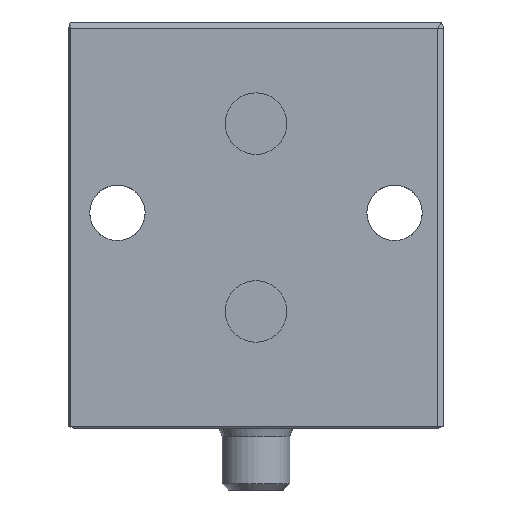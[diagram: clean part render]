
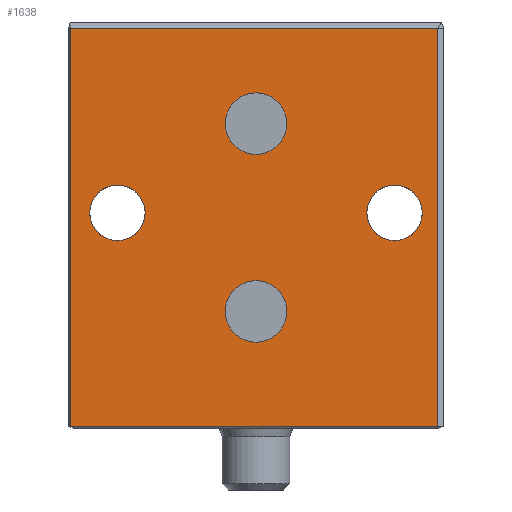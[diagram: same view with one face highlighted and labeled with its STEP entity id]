
A CAD part, front view. The second image highlights one B-rep face of the part: STEP entity #1638.
In plain terms, the highlighted planar face has unit normal (0, -1, 0).
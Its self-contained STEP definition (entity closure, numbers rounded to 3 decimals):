
#22 = AXIS2_PLACEMENT_3D ( 'NONE', #1084, #1463, #2278 ) ;
#62 = AXIS2_PLACEMENT_3D ( 'NONE', #227, #2414, #628 ) ;
#78 = EDGE_CURVE ( 'NONE', #1046, #1297, #368, .T. ) ;
#81 = LINE ( 'NONE', #902, #2338 ) ;
#95 = EDGE_LOOP ( 'NONE', ( #309, #1079 ) ) ;
#104 = EDGE_CURVE ( 'NONE', #399, #1691, #909, .T. ) ;
#114 = ORIENTED_EDGE ( 'NONE', *, *, #1717, .F. ) ;
#153 = CIRCLE ( 'NONE', #62, 4.5 ) ;
#167 = CARTESIAN_POINT ( 'NONE',  ( -30.136, -20.5, 66. ) ) ;
#169 = AXIS2_PLACEMENT_3D ( 'NONE', #1321, #310, #2162 ) ;
#187 = CARTESIAN_POINT ( 'NONE',  ( -30.5, -20.5, 0.364 ) ) ;
#227 = CARTESIAN_POINT ( 'NONE',  ( 22.5, -20.5, 35. ) ) ;
#302 = VERTEX_POINT ( 'NONE', #508 ) ;
#309 = ORIENTED_EDGE ( 'NONE', *, *, #1769, .F. ) ;
#310 = DIRECTION ( 'NONE',  ( 0., -1., 0. ) ) ;
#346 = EDGE_CURVE ( 'NONE', #775, #302, #81, .T. ) ;
#368 = LINE ( 'NONE', #187, #2305 ) ;
#373 = CARTESIAN_POINT ( 'NONE',  ( 29.5, -20.5, 0.364 ) ) ;
#380 = DIRECTION ( 'NONE',  ( 0., 0., 1. ) ) ;
#399 = VERTEX_POINT ( 'NONE', #2340 ) ;
#444 = CIRCLE ( 'NONE', #2614, 4.5 ) ;
#498 = ORIENTED_EDGE ( 'NONE', *, *, #914, .T. ) ;
#508 = CARTESIAN_POINT ( 'NONE',  ( -30.136, -20.5, 65. ) ) ;
#574 = FACE_OUTER_BOUND ( 'NONE', #1750, .T. ) ;
#605 = ORIENTED_EDGE ( 'NONE', *, *, #78, .T. ) ;
#628 = DIRECTION ( 'NONE',  ( 0., 0., 1. ) ) ;
#633 = LINE ( 'NONE', #1429, #2048 ) ;
#648 = DIRECTION ( 'NONE',  ( 0., 0., -1. ) ) ;
#659 = CARTESIAN_POINT ( 'NONE',  ( 0., -20.5, 49.5 ) ) ;
#729 = AXIS2_PLACEMENT_3D ( 'NONE', #834, #1881, #1658 ) ;
#775 = VERTEX_POINT ( 'NONE', #2191 ) ;
#780 = DIRECTION ( 'NONE',  ( 0., 1., 0. ) ) ;
#823 = FACE_BOUND ( 'NONE', #1883, .T. ) ;
#834 = CARTESIAN_POINT ( 'NONE',  ( 0., -20.5, 19. ) ) ;
#838 = VECTOR ( 'NONE', #1786, 1000. ) ;
#848 = EDGE_CURVE ( 'NONE', #1904, #1284, #2532, .T. ) ;
#857 = EDGE_LOOP ( 'NONE', ( #2617, #498 ) ) ;
#870 = CARTESIAN_POINT ( 'NONE',  ( 0., -20.5, 44.5 ) ) ;
#877 = AXIS2_PLACEMENT_3D ( 'NONE', #1782, #780, #380 ) ;
#894 = CARTESIAN_POINT ( 'NONE',  ( -30.136, -20.5, 0.364 ) ) ;
#902 = CARTESIAN_POINT ( 'NONE',  ( -30.5, -20.5, 65. ) ) ;
#909 = CIRCLE ( 'NONE', #1366, 5. ) ;
#914 = EDGE_CURVE ( 'NONE', #1284, #1904, #444, .T. ) ;
#941 = CIRCLE ( 'NONE', #169, 5. ) ;
#952 = ORIENTED_EDGE ( 'NONE', *, *, #1298, .T. ) ;
#978 = VERTEX_POINT ( 'NONE', #870 ) ;
#1006 = DIRECTION ( 'NONE',  ( 0., 0., -1. ) ) ;
#1046 = VERTEX_POINT ( 'NONE', #894 ) ;
#1047 = DIRECTION ( 'NONE',  ( 0., 0., 1. ) ) ;
#1067 = AXIS2_PLACEMENT_3D ( 'NONE', #659, #2289, #648 ) ;
#1079 = ORIENTED_EDGE ( 'NONE', *, *, #1528, .F. ) ;
#1084 = CARTESIAN_POINT ( 'NONE',  ( 22.5, -20.5, 35. ) ) ;
#1163 = CARTESIAN_POINT ( 'NONE',  ( -30.5, -20.5, 66. ) ) ;
#1182 = CARTESIAN_POINT ( 'NONE',  ( 22.5, -20.5, 39.5 ) ) ;
#1188 = DIRECTION ( 'NONE',  ( 0., -1., 0. ) ) ;
#1205 = CARTESIAN_POINT ( 'NONE',  ( -22.5, -20.5, 30.5 ) ) ;
#1269 = VERTEX_POINT ( 'NONE', #1970 ) ;
#1277 = CARTESIAN_POINT ( 'NONE',  ( 0., -20.5, 14. ) ) ;
#1284 = VERTEX_POINT ( 'NONE', #1205 ) ;
#1297 = VERTEX_POINT ( 'NONE', #373 ) ;
#1298 = EDGE_CURVE ( 'NONE', #302, #1046, #1981, .T. ) ;
#1321 = CARTESIAN_POINT ( 'NONE',  ( 0., -20.5, 49.5 ) ) ;
#1356 = ORIENTED_EDGE ( 'NONE', *, *, #2391, .T. ) ;
#1366 = AXIS2_PLACEMENT_3D ( 'NONE', #1400, #1188, #1006 ) ;
#1379 = EDGE_CURVE ( 'NONE', #1297, #775, #633, .T. ) ;
#1400 = CARTESIAN_POINT ( 'NONE',  ( 0., -20.5, 19. ) ) ;
#1420 = DIRECTION ( 'NONE',  ( 0., 1., 0. ) ) ;
#1429 = CARTESIAN_POINT ( 'NONE',  ( 29.5, -20.5, 66. ) ) ;
#1463 = DIRECTION ( 'NONE',  ( 0., 1., 0. ) ) ;
#1475 = CARTESIAN_POINT ( 'NONE',  ( -22.5, -20.5, 35. ) ) ;
#1514 = CARTESIAN_POINT ( 'NONE',  ( 0., -20.5, 54.5 ) ) ;
#1528 = EDGE_CURVE ( 'NONE', #1933, #978, #941, .T. ) ;
#1575 = DIRECTION ( 'NONE',  ( 1., 0., 0. ) ) ;
#1638 = ADVANCED_FACE ( 'NONE', ( #574, #1812, #2639, #2439, #823 ), #2172, .F. ) ;
#1658 = DIRECTION ( 'NONE',  ( 0., 0., -1. ) ) ;
#1691 = VERTEX_POINT ( 'NONE', #1277 ) ;
#1717 = EDGE_CURVE ( 'NONE', #1691, #399, #2467, .T. ) ;
#1750 = EDGE_LOOP ( 'NONE', ( #952, #605, #1919, #1897 ) ) ;
#1769 = EDGE_CURVE ( 'NONE', #978, #1933, #2199, .T. ) ;
#1782 = CARTESIAN_POINT ( 'NONE',  ( -22.5, -20.5, 35. ) ) ;
#1786 = DIRECTION ( 'NONE',  ( 0., 0., -1. ) ) ;
#1812 = FACE_BOUND ( 'NONE', #95, .T. ) ;
#1881 = DIRECTION ( 'NONE',  ( 0., -1., 0. ) ) ;
#1883 = EDGE_LOOP ( 'NONE', ( #1356, #2080 ) ) ;
#1897 = ORIENTED_EDGE ( 'NONE', *, *, #346, .T. ) ;
#1904 = VERTEX_POINT ( 'NONE', #1937 ) ;
#1919 = ORIENTED_EDGE ( 'NONE', *, *, #1379, .T. ) ;
#1933 = VERTEX_POINT ( 'NONE', #1514 ) ;
#1937 = CARTESIAN_POINT ( 'NONE',  ( -22.5, -20.5, 39.5 ) ) ;
#1962 = EDGE_LOOP ( 'NONE', ( #114, #2005 ) ) ;
#1970 = CARTESIAN_POINT ( 'NONE',  ( 22.5, -20.5, 30.5 ) ) ;
#1981 = LINE ( 'NONE', #167, #838 ) ;
#1986 = AXIS2_PLACEMENT_3D ( 'NONE', #1163, #1420, #2232 ) ;
#1997 = DIRECTION ( 'NONE',  ( 0., 0., 1. ) ) ;
#2005 = ORIENTED_EDGE ( 'NONE', *, *, #104, .F. ) ;
#2048 = VECTOR ( 'NONE', #1047, 1000. ) ;
#2059 = VERTEX_POINT ( 'NONE', #1182 ) ;
#2080 = ORIENTED_EDGE ( 'NONE', *, *, #2567, .T. ) ;
#2107 = DIRECTION ( 'NONE',  ( -1., 0., 0. ) ) ;
#2162 = DIRECTION ( 'NONE',  ( 0., 0., -1. ) ) ;
#2172 = PLANE ( 'NONE',  #1986 ) ;
#2191 = CARTESIAN_POINT ( 'NONE',  ( 29.5, -20.5, 65. ) ) ;
#2199 = CIRCLE ( 'NONE', #1067, 5. ) ;
#2232 = DIRECTION ( 'NONE',  ( 0., 0., 1. ) ) ;
#2278 = DIRECTION ( 'NONE',  ( 0., 0., 1. ) ) ;
#2289 = DIRECTION ( 'NONE',  ( 0., -1., 0. ) ) ;
#2305 = VECTOR ( 'NONE', #1575, 1000. ) ;
#2329 = CIRCLE ( 'NONE', #22, 4.5 ) ;
#2338 = VECTOR ( 'NONE', #2107, 1000. ) ;
#2340 = CARTESIAN_POINT ( 'NONE',  ( 0., -20.5, 24. ) ) ;
#2391 = EDGE_CURVE ( 'NONE', #2059, #1269, #153, .T. ) ;
#2414 = DIRECTION ( 'NONE',  ( 0., 1., 0. ) ) ;
#2439 = FACE_BOUND ( 'NONE', #857, .T. ) ;
#2467 = CIRCLE ( 'NONE', #729, 5. ) ;
#2532 = CIRCLE ( 'NONE', #877, 4.5 ) ;
#2567 = EDGE_CURVE ( 'NONE', #1269, #2059, #2329, .T. ) ;
#2614 = AXIS2_PLACEMENT_3D ( 'NONE', #1475, #2640, #1997 ) ;
#2617 = ORIENTED_EDGE ( 'NONE', *, *, #848, .T. ) ;
#2639 = FACE_BOUND ( 'NONE', #1962, .T. ) ;
#2640 = DIRECTION ( 'NONE',  ( 0., 1., 0. ) ) ;
